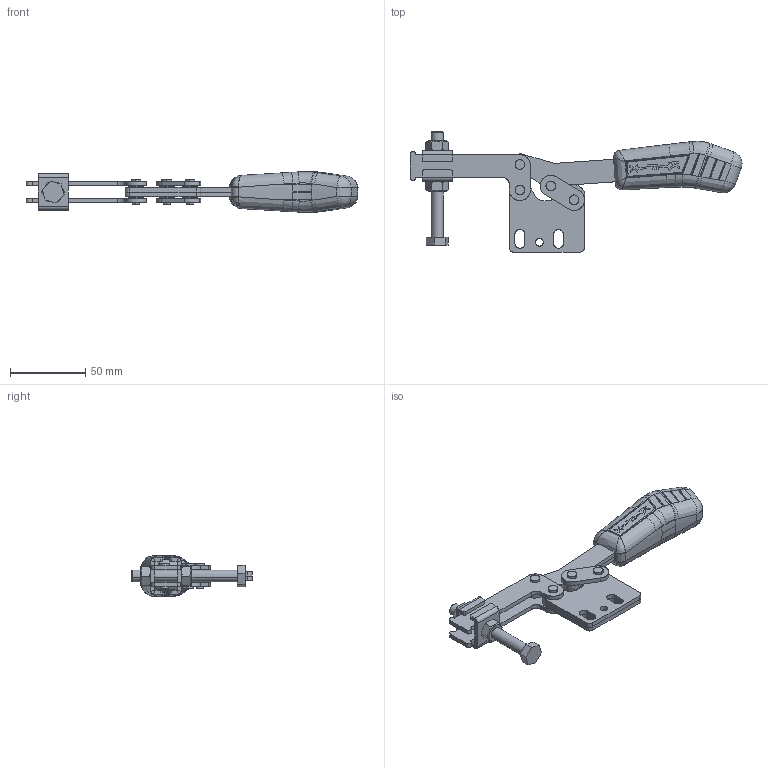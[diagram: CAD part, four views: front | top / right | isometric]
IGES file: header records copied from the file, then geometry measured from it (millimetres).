
Start section: SolidWorks IGES file using analytic representation for surfaces
Global section: file name: C:\Projetos\Grampos\KF-523\KF-523 R\KF-523 R.IGS; native system: SolidWorks 2013; preprocessor: SolidWorks 2013; author: Ricardo; date: 140818.100342; units: millimetre
Bounding box: 220.63 x 79.88 x 27.02 mm (x, y, z)
Surface area: 48928.2 mm2 (no closed solid volume)
Topology: 0 solids, 0 shells, 718 faces, 8699 edges, 8694 vertices
Faces by surface type: bspline 401, revolution 317
